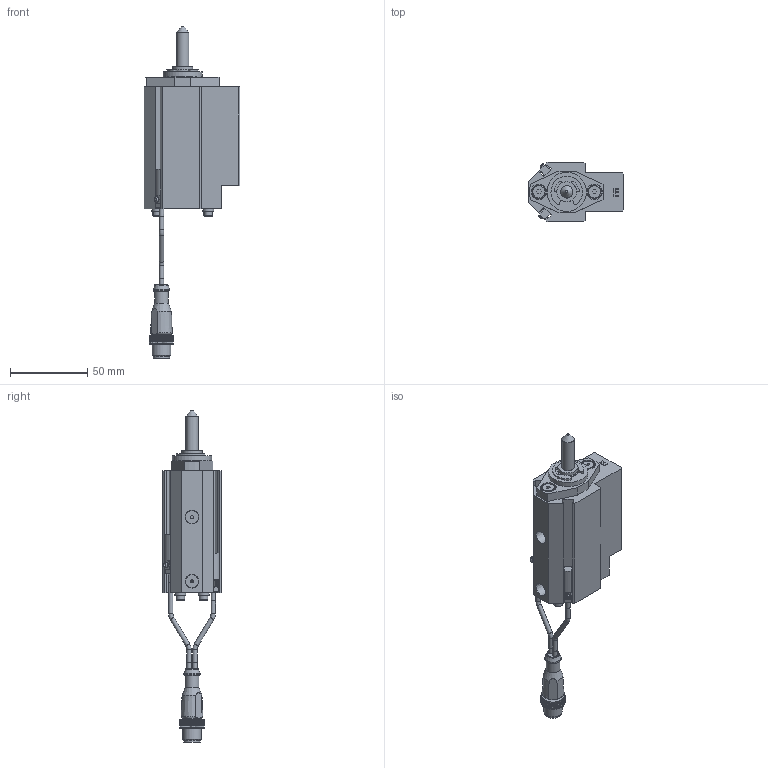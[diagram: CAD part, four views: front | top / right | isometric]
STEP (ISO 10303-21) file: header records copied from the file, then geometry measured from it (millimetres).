
FILE_DESCRIPTION(/* description */ ('NAAMS FLOATING MICRO PIN'),/* implementation_level */ '2;1');
FILE_NAME(/* name */ 'C:\Vault Workspace\CAD\Welker\Shot Pin\NMP\NMP080022EANL3.stp',/* time_stamp */ '2021-01-27T08:41:08-05:00',/* author */ ('WELKER'),/* organization */ (''),/* preprocessor_version */ 'ST-DEVELOPER v18.1',/* originating_system */ 'Autodesk Inventor 2020',/* authorisation */ '');
FILE_SCHEMA (('AUTOMOTIVE_DESIGN { 1 0 10303 214 3 1 1 }'));
Length unit declared in the file: millimetre
Products named in the file (16): NMPL01; NMP L3 SWITCH; L3 Connector; L3 Sensor 1; L3 Sensor 2; L3 Sensor cable; L3 Sensor cable 2; M3X0.5-8 SHCS; NL3; NMPE06; NMPE03; NMPE05-DIA-LENGTH; 985432A218; NMPE01E-PORT; RMPE02; M5X5 SHOULDER
Assembly tree (22 placements, depth 3):
  NMPL01
    NMP L3 SWITCH
      L3 Connector
      L3 Sensor 1
      L3 Sensor 2
      L3 Sensor cable
      L3 Sensor cable 2
    M3X0.5-8 SHCS  x4
    NL3  x4
    NMPE06
    NMPE03
    NMPE05-DIA-LENGTH
    985432A218
    NMPE01E-PORT
    RMPE02
    M5X5 SHOULDER  x2
Bounding box: 62 x 38.1 x 214.73 mm (x, y, z)
Volume: 113401.6 mm3; surface area: 44729.2 mm2
Topology: 21 solids, 21 shells, 748 faces, 2030 edges, 1357 vertices
Faces by surface type: plane 553, cylinder 144, cone 35, torus 11, sphere 3, bspline 2
Full cylindrical faces by diameter (mm): 2 x2, 2.459 x4, 2.9 x10, 3 x5, 3.242 x2, 3.4 x4, 4 x2, 5 x6, 5.5 x4, 6.647 x2, 7 x4, 8 x3, 8.3 x2, 9 x3, 10 x3, 10.4 x1, 10.5 x1, 12 x1, 13 x3, 16 x2, 19.05 x3, 21 x1, 22.5 x1, 23.672 x1, 24 x1, 25.4 x1, 25.5 x1, 26.5 x1, 28.677 x1, 29.21 x1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
Entity records: 22859 total; most frequent: CARTESIAN_POINT 4181, ORIENTED_EDGE 3752, DIRECTION 3736, EDGE_CURVE 1876, LINE 1388, VECTOR 1388, VERTEX_POINT 1262, AXIS2_PLACEMENT_3D 1174
